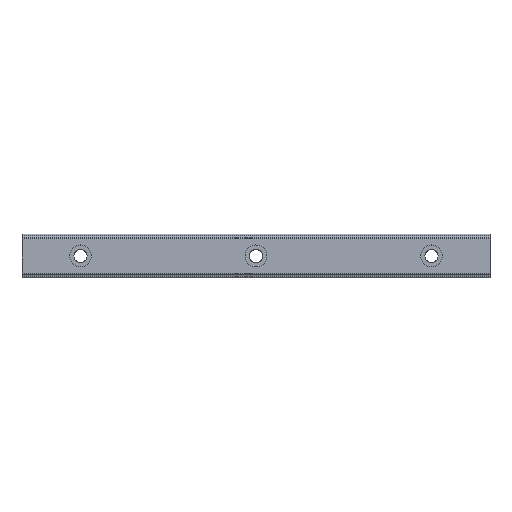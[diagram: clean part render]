
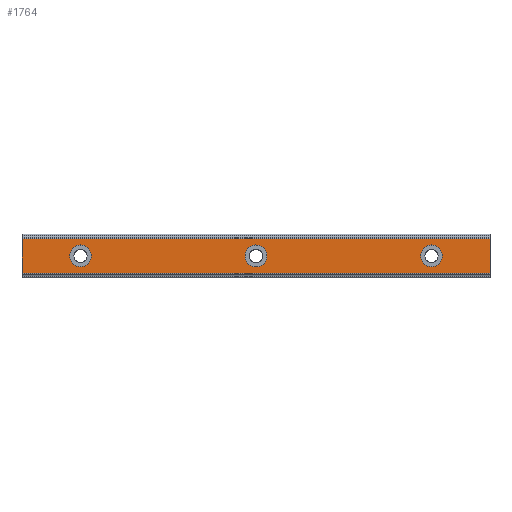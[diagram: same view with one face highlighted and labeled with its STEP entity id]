
A CAD part, top view. The second image highlights one B-rep face of the part: STEP entity #1764.
In plain terms, the highlighted planar face has unit normal (0, 0, 1).
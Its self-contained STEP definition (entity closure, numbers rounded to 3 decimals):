
#1457=CARTESIAN_POINT('POINT225',(140.,-5.945,
   12.5));
#1458=VERTEX_POINT('VERTEX225',#1457);
#1466=CARTESIAN_POINT('POINT226',(-20.,-5.945,
   12.5));
#1467=VERTEX_POINT('VERTEX226',#1466);
#1468=CARTESIAN_POINT('POS398',(-20.,-5.945,
   12.5));
#1469=DIRECTION('DIR601',(1.,0.,0.));
#1470=VECTOR('VEC195',#1469,1.);
#1471=LINE('STRAIGHT195',#1468,#1470);
#1472=EDGE_CURVE('EDGE334',#1467,#1458,#1471,.T.);
#1509=CARTESIAN_POINT('POINT227',(-20.,5.945,
   12.5));
#1510=VERTEX_POINT('VERTEX227',#1509);
#1511=CARTESIAN_POINT('POS401',(-20.,5.945,
   12.5));
#1512=DIRECTION('DIR606',(0.,-1.,0.));
#1513=VECTOR('VEC196',#1512,1.);
#1514=LINE('STRAIGHT196',#1511,#1513);
#1515=EDGE_CURVE('EDGE336',#1510,#1467,#1514,.T.);
#1549=CARTESIAN_POINT('POINT228',(140.,5.945,
   12.5));
#1550=VERTEX_POINT('VERTEX228',#1549);
#1560=CARTESIAN_POINT('POS405',(-20.,5.945,
   12.5));
#1561=DIRECTION('DIR613',(1.,0.,0.));
#1562=VECTOR('VEC197',#1561,1.);
#1563=LINE('STRAIGHT197',#1560,#1562);
#1564=EDGE_CURVE('EDGE339',#1510,#1550,#1563,.T.);
#1593=CARTESIAN_POINT('POS407',(140.,5.945,12.5
   ));
#1594=DIRECTION('DIR616',(0.,1.,0.));
#1595=VECTOR('VEC198',#1594,1.);
#1596=LINE('STRAIGHT198',#1593,#1595);
#1597=EDGE_CURVE('EDGE340',#1458,#1550,#1596,.T.);
#1625=CARTESIAN_POINT('POINT229',(63.75,0.,
   12.5));
#1626=VERTEX_POINT('VERTEX229',#1625);
#1634=CARTESIAN_POINT('POINT230',(56.25,0.,
   12.5));
#1635=VERTEX_POINT('VERTEX230',#1634);
#1642=CARTESIAN_POINT('POS411',(60.,0.,12.5));
#1643=DIRECTION('DIR621',(0.,0.,-1.));
#1644=DIRECTION('DIR622',(1.,0.,0.));
#1645=AXIS2_PLACEMENT_3D('AXIS211',#1642,#1643,#1644);
#1646=CIRCLE('ELLIPSE107',#1645,3.75);
#1647=EDGE_CURVE('EDGE343',#1626,#1635,#1646,.T.);
#1658=EDGE_CURVE('EDGE344',#1635,#1626,#1646,.T.);
#1665=CARTESIAN_POINT('POINT231',(123.75,0.,
   12.5));
#1666=VERTEX_POINT('VERTEX231',#1665);
#1674=CARTESIAN_POINT('POINT232',(116.25,0.,
   12.5));
#1675=VERTEX_POINT('VERTEX232',#1674);
#1682=CARTESIAN_POINT('POS415',(120.,0.,12.5));
#1683=DIRECTION('DIR627',(0.,0.,-1.));
#1684=DIRECTION('DIR628',(1.,0.,0.));
#1685=AXIS2_PLACEMENT_3D('AXIS213',#1682,#1683,#1684);
#1686=CIRCLE('ELLIPSE108',#1685,3.75);
#1687=EDGE_CURVE('EDGE347',#1666,#1675,#1686,.T.);
#1698=EDGE_CURVE('EDGE348',#1675,#1666,#1686,.T.);
#1730=ORIENTED_EDGE('COEDGE691',*,*,#1698,.T.);
#1731=ORIENTED_EDGE('COEDGE692',*,*,#1687,.T.);
#1732=EDGE_LOOP('NONE',(#1730,#1731));
#1733=FACE_BOUND('LOOP1',#1732,.T.);
#1734=ORIENTED_EDGE('COEDGE693',*,*,#1658,.T.);
#1735=ORIENTED_EDGE('COEDGE694',*,*,#1647,.T.);
#1736=EDGE_LOOP('NONE',(#1734,#1735));
#1737=FACE_BOUND('LOOP1',#1736,.T.);
#1738=CARTESIAN_POINT('POINT235',(-3.75,0.,
   12.5));
#1739=VERTEX_POINT('VERTEX235',#1738);
#1740=CARTESIAN_POINT('POINT236',(3.75,0.,
   12.5));
#1741=VERTEX_POINT('VERTEX236',#1740);
#1742=CARTESIAN_POINT('POS419',(0.,0.,12.5));
#1743=DIRECTION('DIR635',(0.,0.,-1.));
#1744=DIRECTION('DIR636',(1.,0.,0.));
#1745=AXIS2_PLACEMENT_3D('AXIS217',#1742,#1743,#1744);
#1746=CIRCLE('ELLIPSE110',#1745,3.75);
#1747=EDGE_CURVE('EDGE351',#1739,#1741,#1746,.T.);
#1748=ORIENTED_EDGE('COEDGE695',*,*,#1747,.T.);
#1749=EDGE_CURVE('EDGE352',#1741,#1739,#1746,.T.);
#1750=ORIENTED_EDGE('COEDGE696',*,*,#1749,.T.);
#1751=EDGE_LOOP('NONE',(#1748,#1750));
#1752=FACE_BOUND('LOOP1',#1751,.T.);
#1753=ORIENTED_EDGE('COEDGE697',*,*,#1597,.T.);
#1754=ORIENTED_EDGE('COEDGE698',*,*,#1564,.F.);
#1755=ORIENTED_EDGE('COEDGE699',*,*,#1515,.T.);
#1756=ORIENTED_EDGE('COEDGE700',*,*,#1472,.T.);
#1757=EDGE_LOOP('NONE',(#1753,#1754,#1755,#1756));
#1758=FACE_BOUND('LOOP1',#1757,.T.);
#1759=CARTESIAN_POINT('POS420',(-20.,0.,
   12.5));
#1760=DIRECTION('DIR637',(0.,0.,1.));
#1761=DIRECTION('DIR638',(1.,0.,0.));
#1762=AXIS2_PLACEMENT_3D('AXIS218',#1759,#1760,#1761);
#1763=PLANE('PLANE57',#1762);
#1764=ADVANCED_FACE('FACE124',(#1733,#1737,#1752,#1758),#1763,.T.);
